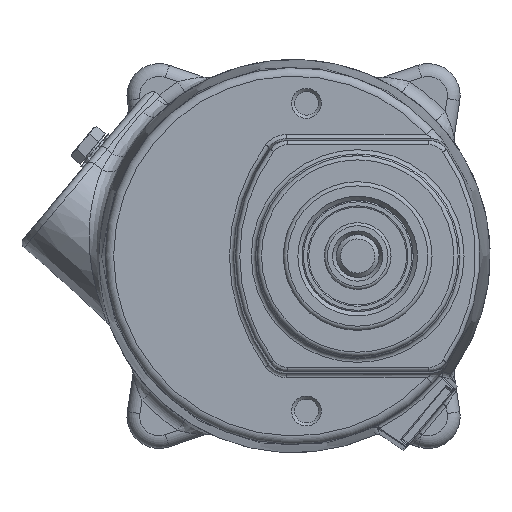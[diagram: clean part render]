
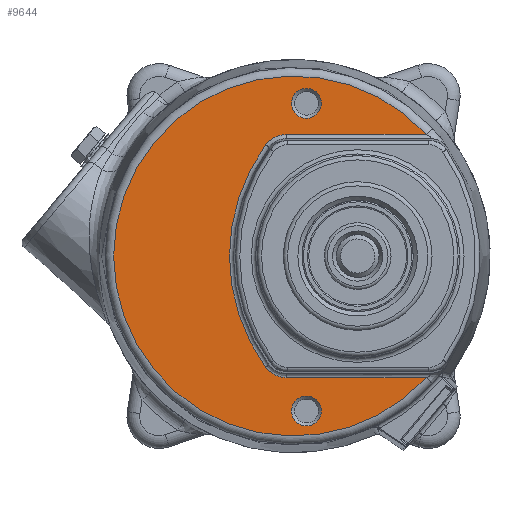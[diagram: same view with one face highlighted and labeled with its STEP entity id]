
A CAD part, front view. The second image highlights one B-rep face of the part: STEP entity #9644.
In plain terms, the highlighted planar face has unit normal (0, -1, 0).
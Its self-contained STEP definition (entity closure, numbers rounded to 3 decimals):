
#458=FACE_BOUND('',#2157,.T.);
#459=FACE_BOUND('',#2158,.T.);
#766=CIRCLE('',#10536,43.966);
#767=CIRCLE('',#10537,42.113);
#768=CIRCLE('',#10538,3.5);
#769=CIRCLE('',#10539,3.5);
#1077=B_SPLINE_CURVE_WITH_KNOTS('',3,(#15920,#15921,#15922,#15923,#15924),
 .UNSPECIFIED.,.F.,.F.,(4,1,4),(-0.56,-0.32,0.),
 .UNSPECIFIED.);
#1078=B_SPLINE_CURVE_WITH_KNOTS('',3,(#15928,#15929,#15930,#15931,#15932),
 .UNSPECIFIED.,.F.,.F.,(4,1,4),(-0.56,-0.24,0.),
 .UNSPECIFIED.);
#1581=FACE_OUTER_BOUND('',#2156,.T.);
#2156=EDGE_LOOP('',(#7206,#7207,#7208,#7209,#7210,#7211));
#2157=EDGE_LOOP('',(#7212));
#2158=EDGE_LOOP('',(#7213));
#2773=LINE('',#15934,#3282);
#2774=LINE('',#15937,#3283);
#3282=VECTOR('',#12495,10.);
#3283=VECTOR('',#12498,10.);
#3972=VERTEX_POINT('',#15918);
#3973=VERTEX_POINT('',#15919);
#3974=VERTEX_POINT('',#15925);
#3975=VERTEX_POINT('',#15927);
#3976=VERTEX_POINT('',#15933);
#3977=VERTEX_POINT('',#15935);
#3978=VERTEX_POINT('',#15938);
#3979=VERTEX_POINT('',#15940);
#5099=EDGE_CURVE('',#3972,#3973,#1077,.T.);
#5100=EDGE_CURVE('',#3974,#3972,#766,.T.);
#5101=EDGE_CURVE('',#3975,#3974,#1078,.T.);
#5102=EDGE_CURVE('',#3976,#3975,#2773,.T.);
#5103=EDGE_CURVE('',#3977,#3976,#767,.T.);
#5104=EDGE_CURVE('',#3973,#3977,#2774,.T.);
#5105=EDGE_CURVE('',#3978,#3978,#768,.T.);
#5106=EDGE_CURVE('',#3979,#3979,#769,.T.);
#7206=ORIENTED_EDGE('',*,*,#5099,.F.);
#7207=ORIENTED_EDGE('',*,*,#5100,.F.);
#7208=ORIENTED_EDGE('',*,*,#5101,.F.);
#7209=ORIENTED_EDGE('',*,*,#5102,.F.);
#7210=ORIENTED_EDGE('',*,*,#5103,.F.);
#7211=ORIENTED_EDGE('',*,*,#5104,.F.);
#7212=ORIENTED_EDGE('',*,*,#5105,.T.);
#7213=ORIENTED_EDGE('',*,*,#5106,.T.);
#8762=PLANE('',#10535);
#9644=ADVANCED_FACE('',(#1581,#458,#459),#8762,.F.);
#10535=AXIS2_PLACEMENT_3D('',#15917,#12491,#12492);
#10536=AXIS2_PLACEMENT_3D('',#15926,#12493,#12494);
#10537=AXIS2_PLACEMENT_3D('',#15936,#12496,#12497);
#10538=AXIS2_PLACEMENT_3D('',#15939,#12499,#12500);
#10539=AXIS2_PLACEMENT_3D('',#15941,#12501,#12502);
#12491=DIRECTION('center_axis',(0.,1.,0.));
#12492=DIRECTION('ref_axis',(0.,0.,
-1.));
#12493=DIRECTION('center_axis',(0.,-1.,0.));
#12494=DIRECTION('ref_axis',(-1.,0.,0.));
#12495=DIRECTION('',(-1.,0.,0.));
#12496=DIRECTION('center_axis',(0.,1.,0.));
#12497=DIRECTION('ref_axis',(-1.,0.,0.));
#12498=DIRECTION('',(1.,0.,0.));
#12499=DIRECTION('center_axis',(0.,1.,0.));
#12500=DIRECTION('ref_axis',(-1.,0.,0.));
#12501=DIRECTION('center_axis',(0.,1.,0.));
#12502=DIRECTION('ref_axis',(-1.,0.,0.));
#15917=CARTESIAN_POINT('Origin',(-38.8,-85.,0.));
#15918=CARTESIAN_POINT('',(-6.485,-85.,-26.018));
#15919=CARTESIAN_POINT('',(-1.652,-85.,-28.466));
#15920=CARTESIAN_POINT('Ctrl Pts',(-6.485,-85.,-26.018));
#15921=CARTESIAN_POINT('Ctrl Pts',(-6.012,-85.,-26.662));
#15922=CARTESIAN_POINT('Ctrl Pts',(-4.602,-85.,-27.948));
#15923=CARTESIAN_POINT('Ctrl Pts',(-2.718,-85.,-28.466));
#15924=CARTESIAN_POINT('Ctrl Pts',(-1.652,-85.,-28.466));
#15925=CARTESIAN_POINT('',(-6.485,-85.,26.018));
#15926=CARTESIAN_POINT('Origin',(28.956,-85.,0.));
#15927=CARTESIAN_POINT('',(-1.652,-85.,28.466));
#15928=CARTESIAN_POINT('Ctrl Pts',(-1.652,-85.,28.466));
#15929=CARTESIAN_POINT('Ctrl Pts',(-2.718,-85.,28.466));
#15930=CARTESIAN_POINT('Ctrl Pts',(-4.587,-85.,27.955));
#15931=CARTESIAN_POINT('Ctrl Pts',(-6.012,-85.,26.662));
#15932=CARTESIAN_POINT('Ctrl Pts',(-6.485,-85.,26.018));
#15933=CARTESIAN_POINT('',(31.036,-85.,28.466));
#15934=CARTESIAN_POINT('',(-19.4,-85.,28.466));
#15935=CARTESIAN_POINT('',(31.036,-85.,-28.466));
#15936=CARTESIAN_POINT('Origin',(0.,-85.,0.));
#15937=CARTESIAN_POINT('',(-19.4,-85.,-28.466));
#15938=CARTESIAN_POINT('',(6.5,-85.,-36.256));
#15939=CARTESIAN_POINT('Origin',(3.,-85.,-36.256));
#15940=CARTESIAN_POINT('',(6.5,-85.,35.744));
#15941=CARTESIAN_POINT('Origin',(3.,-85.,35.744));
